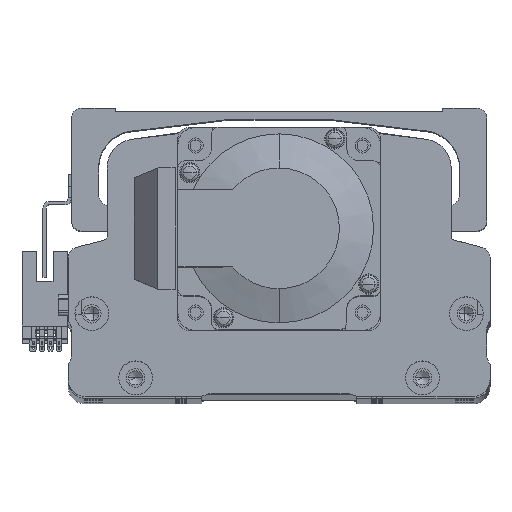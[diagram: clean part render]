
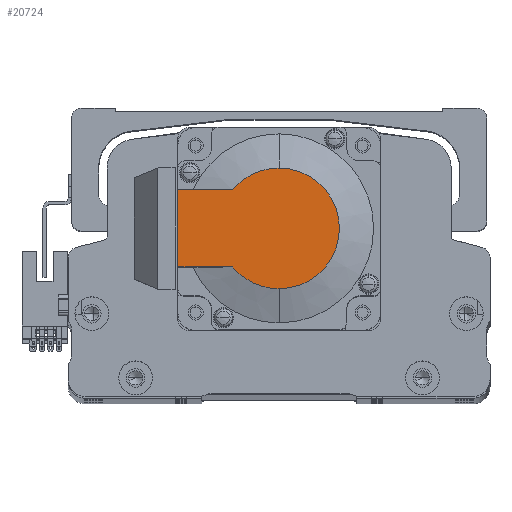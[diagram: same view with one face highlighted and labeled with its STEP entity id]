
A CAD part, top view. The second image highlights one B-rep face of the part: STEP entity #20724.
In plain terms, the highlighted planar face has unit normal (0, 0, 1) as drawn and (-1, 0, 0) by its records, which use the part's own axes.
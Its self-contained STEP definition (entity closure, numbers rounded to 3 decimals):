
#319 = DIRECTION ( 'NONE',  ( -1., 0., 0. ) ) ;
#1451 = VERTEX_POINT ( 'NONE', #38717 ) ;
#1647 = EDGE_CURVE ( 'NONE', #23968, #1451, #50773, .T. ) ;
#8903 = VERTEX_POINT ( 'NONE', #19393 ) ;
#10299 = CIRCLE ( 'NONE', #40731, 17.881 ) ;
#10743 = ORIENTED_EDGE ( 'NONE', *, *, #25897, .T. ) ;
#10789 = DIRECTION ( 'NONE',  ( 0., -1., 0. ) ) ;
#11175 = EDGE_CURVE ( 'NONE', #48416, #41186, #55495, .T. ) ;
#11817 = CARTESIAN_POINT ( 'NONE',  ( -118.5, 0., 11.45 ) ) ;
#12695 = FACE_OUTER_BOUND ( 'NONE', #57892, .T. ) ;
#13356 = DIRECTION ( 'NONE',  ( -1., 0., 0. ) ) ;
#14585 = DIRECTION ( 'NONE',  ( 0., -1., 0. ) ) ;
#18939 = DIRECTION ( 'NONE',  ( -1., 0., 0. ) ) ;
#19393 = CARTESIAN_POINT ( 'NONE',  ( -118.5, 0., 17.881 ) ) ;
#19891 = VECTOR ( 'NONE', #10789, 1000. ) ;
#20724 = ADVANCED_FACE ( 'NONE', ( #12695 ), #35812, .T. ) ;
#21030 = VECTOR ( 'NONE', #22153, 1000. ) ;
#22153 = DIRECTION ( 'NONE',  ( 0., 0., 1. ) ) ;
#23968 = VERTEX_POINT ( 'NONE', #32803 ) ;
#25897 = EDGE_CURVE ( 'NONE', #8903, #1451, #26319, .T. ) ;
#25951 = CARTESIAN_POINT ( 'NONE',  ( -118.5, 0., 0. ) ) ;
#26319 = CIRCLE ( 'NONE', #28106, 17.881 ) ;
#27029 = VECTOR ( 'NONE', #14585, 1000. ) ;
#27031 = CARTESIAN_POINT ( 'NONE',  ( -118.5, -8.941, 0. ) ) ;
#27383 = ORIENTED_EDGE ( 'NONE', *, *, #35921, .F. ) ;
#28106 = AXIS2_PLACEMENT_3D ( 'NONE', #40058, #13356, #44575 ) ;
#30430 = DIRECTION ( 'NONE',  ( 0., 0., -1. ) ) ;
#30941 = ORIENTED_EDGE ( 'NONE', *, *, #1647, .F. ) ;
#31122 = CARTESIAN_POINT ( 'NONE',  ( -118.5, 30., 25. ) ) ;
#31509 = DIRECTION ( 'NONE',  ( 0., 0., 1. ) ) ;
#32803 = CARTESIAN_POINT ( 'NONE',  ( -118.5, 30., 11.45 ) ) ;
#33024 = CARTESIAN_POINT ( 'NONE',  ( -118.5, -8.941, -11.45 ) ) ;
#35812 = PLANE ( 'NONE',  #42009 ) ;
#35899 = VERTEX_POINT ( 'NONE', #44424 ) ;
#35921 = EDGE_CURVE ( 'NONE', #48416, #23968, #46160, .T. ) ;
#38717 = CARTESIAN_POINT ( 'NONE',  ( -118.5, 13.735, 11.45 ) ) ;
#39927 = EDGE_CURVE ( 'NONE', #35899, #8903, #57143, .T. ) ;
#40058 = CARTESIAN_POINT ( 'NONE',  ( -118.5, 0., 0. ) ) ;
#40731 = AXIS2_PLACEMENT_3D ( 'NONE', #25951, #57209, #30430 ) ;
#41186 = VERTEX_POINT ( 'NONE', #43556 ) ;
#42009 = AXIS2_PLACEMENT_3D ( 'NONE', #27031, #319, #31509 ) ;
#43556 = CARTESIAN_POINT ( 'NONE',  ( -118.5, 13.735, -11.45 ) ) ;
#43803 = EDGE_CURVE ( 'NONE', #41186, #35899, #10299, .T. ) ;
#44424 = CARTESIAN_POINT ( 'NONE',  ( -118.5, 0., -17.881 ) ) ;
#44575 = DIRECTION ( 'NONE',  ( 0., 0., -1. ) ) ;
#45653 = CARTESIAN_POINT ( 'NONE',  ( -118.5, 0., 0. ) ) ;
#45817 = AXIS2_PLACEMENT_3D ( 'NONE', #45653, #18939, #50116 ) ;
#46160 = LINE ( 'NONE', #31122, #21030 ) ;
#48416 = VERTEX_POINT ( 'NONE', #49357 ) ;
#49357 = CARTESIAN_POINT ( 'NONE',  ( -118.5, 30., -11.45 ) ) ;
#50116 = DIRECTION ( 'NONE',  ( 0., 0., -1. ) ) ;
#50773 = LINE ( 'NONE', #11817, #27029 ) ;
#53392 = ORIENTED_EDGE ( 'NONE', *, *, #39927, .T. ) ;
#53450 = ORIENTED_EDGE ( 'NONE', *, *, #11175, .T. ) ;
#55495 = LINE ( 'NONE', #33024, #19891 ) ;
#55523 = ORIENTED_EDGE ( 'NONE', *, *, #43803, .T. ) ;
#57143 = CIRCLE ( 'NONE', #45817, 17.881 ) ;
#57209 = DIRECTION ( 'NONE',  ( -1., 0., 0. ) ) ;
#57892 = EDGE_LOOP ( 'NONE', ( #53450, #55523, #53392, #10743, #30941, #27383 ) ) ;
